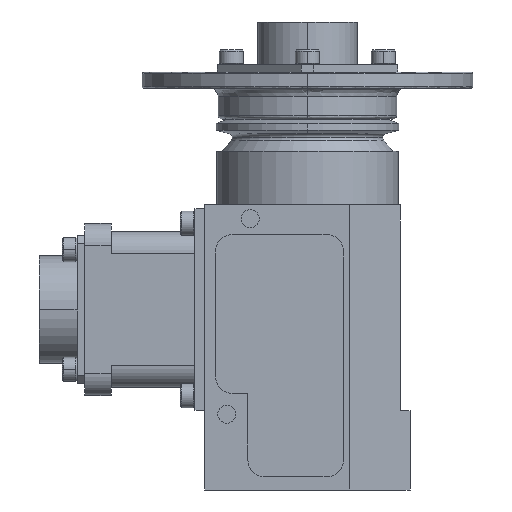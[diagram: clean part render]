
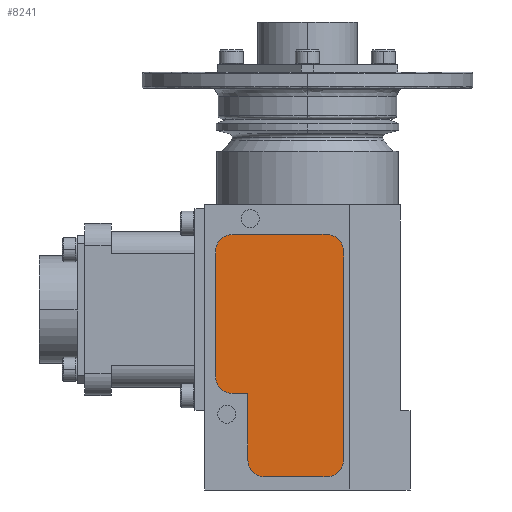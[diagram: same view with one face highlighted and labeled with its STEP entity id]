
A CAD part, left-side view. The second image highlights one B-rep face of the part: STEP entity #8241.
In plain terms, the highlighted planar face has unit normal (-1, 0, 0).
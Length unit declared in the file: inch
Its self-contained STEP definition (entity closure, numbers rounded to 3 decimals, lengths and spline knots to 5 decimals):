
#88 = VERTEX_POINT ( 'NONE', #5137 ) ;
#96 = EDGE_CURVE ( 'NONE', #2669, #3399, #671, .T. ) ;
#108 = ORIENTED_EDGE ( 'NONE', *, *, #8727, .T. ) ;
#149 = AXIS2_PLACEMENT_3D ( 'NONE', #9967, #4000, #12068 ) ;
#193 = LINE ( 'NONE', #509, #5898 ) ;
#318 = ORIENTED_EDGE ( 'NONE', *, *, #12033, .T. ) ;
#484 = CARTESIAN_POINT ( 'NONE',  ( -0.74, 0.568, -2.4255 ) ) ;
#509 = CARTESIAN_POINT ( 'NONE',  ( -0.74, 0.568, -1.22542 ) ) ;
#645 = DIRECTION ( 'NONE',  ( 0., 0., -1. ) ) ;
#671 = CIRCLE ( 'NONE', #12542, 0.125 ) ;
#772 = DIRECTION ( 'NONE',  ( 0., -1., 0. ) ) ;
#826 = AXIS2_PLACEMENT_3D ( 'NONE', #4938, #11897, #6803 ) ;
#845 = VERTEX_POINT ( 'NONE', #10282 ) ;
#1029 = VECTOR ( 'NONE', #4497, 39.37008 ) ;
#1152 = LINE ( 'NONE', #5698, #7794 ) ;
#1427 = AXIS2_PLACEMENT_3D ( 'NONE', #5393, #2187, #6411 ) ;
#1473 = CARTESIAN_POINT ( 'NONE',  ( -0.74, -0.27302, -2.93155 ) ) ;
#1497 = ORIENTED_EDGE ( 'NONE', *, *, #8562, .T. ) ;
#1506 = DIRECTION ( 'NONE',  ( 0., 0., -1. ) ) ;
#1659 = EDGE_CURVE ( 'NONE', #4603, #88, #5565, .T. ) ;
#1685 = ORIENTED_EDGE ( 'NONE', *, *, #2576, .T. ) ;
#1980 = LINE ( 'NONE', #1473, #1029 ) ;
#2187 = DIRECTION ( 'NONE',  ( -1., 0., 0. ) ) ;
#2193 = LINE ( 'NONE', #11314, #6491 ) ;
#2399 = CARTESIAN_POINT ( 'NONE',  ( -0.74, -0.27302, -2.93155 ) ) ;
#2454 = VERTEX_POINT ( 'NONE', #3674 ) ;
#2544 = DIRECTION ( 'NONE',  ( -1., 0., 0. ) ) ;
#2576 = EDGE_CURVE ( 'NONE', #88, #2454, #7892, .T. ) ;
#2644 = ORIENTED_EDGE ( 'NONE', *, *, #8167, .T. ) ;
#2652 = CARTESIAN_POINT ( 'NONE',  ( -0.74, 0.568, -2.4255 ) ) ;
#2669 = VERTEX_POINT ( 'NONE', #11832 ) ;
#2676 = PLANE ( 'NONE',  #826 ) ;
#2927 = CARTESIAN_POINT ( 'NONE',  ( -0.74, 0.568, -2.3005 ) ) ;
#3321 = EDGE_CURVE ( 'NONE', #845, #2669, #2193, .T. ) ;
#3352 = CIRCLE ( 'NONE', #10580, 0.125 ) ;
#3398 = CARTESIAN_POINT ( 'NONE',  ( -0.74, -0.27302, -1.35042 ) ) ;
#3399 = VERTEX_POINT ( 'NONE', #2399 ) ;
#3530 = VERTEX_POINT ( 'NONE', #4240 ) ;
#3674 = CARTESIAN_POINT ( 'NONE',  ( -0.74, 0.45, -2.93155 ) ) ;
#3985 = ORIENTED_EDGE ( 'NONE', *, *, #5355, .T. ) ;
#4000 = DIRECTION ( 'NONE',  ( -1., 0., 0. ) ) ;
#4240 = CARTESIAN_POINT ( 'NONE',  ( -0.74, -0.14802, -1.22542 ) ) ;
#4497 = DIRECTION ( 'NONE',  ( 0., 0., 1. ) ) ;
#4603 = VERTEX_POINT ( 'NONE', #484 ) ;
#4875 = DIRECTION ( 'NONE',  ( -1., 0., 0. ) ) ;
#4938 = CARTESIAN_POINT ( 'NONE',  ( -0.74, 0.568, -1.35042 ) ) ;
#5137 = CARTESIAN_POINT ( 'NONE',  ( -0.74, 0.45, -2.4255 ) ) ;
#5355 = EDGE_CURVE ( 'NONE', #3399, #9112, #1980, .T. ) ;
#5393 = CARTESIAN_POINT ( 'NONE',  ( -0.74, 0.568, -1.35042 ) ) ;
#5452 = CARTESIAN_POINT ( 'NONE',  ( -0.74, -0.14802, -2.93155 ) ) ;
#5565 = LINE ( 'NONE', #2652, #12904 ) ;
#5698 = CARTESIAN_POINT ( 'NONE',  ( -0.74, 0.693, -2.3005 ) ) ;
#5898 = VECTOR ( 'NONE', #8650, 39.37008 ) ;
#6411 = DIRECTION ( 'NONE',  ( 0., -1., 0. ) ) ;
#6491 = VECTOR ( 'NONE', #12348, 39.37008 ) ;
#6546 = CIRCLE ( 'NONE', #149, 0.125 ) ;
#6552 = CARTESIAN_POINT ( 'NONE',  ( -0.74, 0.45, -2.4255 ) ) ;
#6621 = CARTESIAN_POINT ( 'NONE',  ( -0.74, 0.325, -2.93155 ) ) ;
#6799 = VECTOR ( 'NONE', #1506, 39.37008 ) ;
#6803 = DIRECTION ( 'NONE',  ( 0., -1., 0. ) ) ;
#6874 = CIRCLE ( 'NONE', #8668, 0.125 ) ;
#6964 = DIRECTION ( 'NONE',  ( 0., -1., 0. ) ) ;
#7025 = ORIENTED_EDGE ( 'NONE', *, *, #1659, .T. ) ;
#7401 = CARTESIAN_POINT ( 'NONE',  ( -0.74, 0.693, -2.3005 ) ) ;
#7555 = DIRECTION ( 'NONE',  ( 0., -1., 0. ) ) ;
#7671 = DIRECTION ( 'NONE',  ( 0., -1., 0. ) ) ;
#7794 = VECTOR ( 'NONE', #645, 39.37008 ) ;
#7892 = LINE ( 'NONE', #6552, #6799 ) ;
#8127 = FACE_OUTER_BOUND ( 'NONE', #9127, .T. ) ;
#8165 = ORIENTED_EDGE ( 'NONE', *, *, #96, .T. ) ;
#8167 = EDGE_CURVE ( 'NONE', #2454, #845, #6874, .T. ) ;
#8241 = ADVANCED_FACE ( 'NONE', ( #8127 ), #2676, .T. ) ;
#8340 = EDGE_CURVE ( 'NONE', #9112, #3530, #6546, .T. ) ;
#8562 = EDGE_CURVE ( 'NONE', #10810, #9218, #1152, .T. ) ;
#8650 = DIRECTION ( 'NONE',  ( 0., 1., 0. ) ) ;
#8668 = AXIS2_PLACEMENT_3D ( 'NONE', #6621, #2544, #7671 ) ;
#8727 = EDGE_CURVE ( 'NONE', #9218, #4603, #3352, .T. ) ;
#9112 = VERTEX_POINT ( 'NONE', #3398 ) ;
#9127 = EDGE_LOOP ( 'NONE', ( #12654, #12845, #318, #1497, #108, #7025, #1685, #2644, #11170, #8165, #3985 ) ) ;
#9218 = VERTEX_POINT ( 'NONE', #7401 ) ;
#9805 = CARTESIAN_POINT ( 'NONE',  ( -0.74, 0.693, -1.35042 ) ) ;
#9967 = CARTESIAN_POINT ( 'NONE',  ( -0.74, -0.14802, -1.35042 ) ) ;
#10282 = CARTESIAN_POINT ( 'NONE',  ( -0.74, 0.325, -3.05655 ) ) ;
#10451 = DIRECTION ( 'NONE',  ( -1., 0., 0. ) ) ;
#10580 = AXIS2_PLACEMENT_3D ( 'NONE', #2927, #4875, #6964 ) ;
#10810 = VERTEX_POINT ( 'NONE', #9805 ) ;
#11038 = CARTESIAN_POINT ( 'NONE',  ( -0.74, 0.568, -1.22542 ) ) ;
#11170 = ORIENTED_EDGE ( 'NONE', *, *, #3321, .T. ) ;
#11314 = CARTESIAN_POINT ( 'NONE',  ( -0.74, -0.14802, -3.05655 ) ) ;
#11832 = CARTESIAN_POINT ( 'NONE',  ( -0.74, -0.14802, -3.05655 ) ) ;
#11897 = DIRECTION ( 'NONE',  ( -1., 0., 0. ) ) ;
#12033 = EDGE_CURVE ( 'NONE', #12212, #10810, #12608, .T. ) ;
#12068 = DIRECTION ( 'NONE',  ( 0., -1., 0. ) ) ;
#12212 = VERTEX_POINT ( 'NONE', #11038 ) ;
#12348 = DIRECTION ( 'NONE',  ( 0., -1., 0. ) ) ;
#12482 = EDGE_CURVE ( 'NONE', #3530, #12212, #193, .T. ) ;
#12542 = AXIS2_PLACEMENT_3D ( 'NONE', #5452, #10451, #7555 ) ;
#12608 = CIRCLE ( 'NONE', #1427, 0.125 ) ;
#12654 = ORIENTED_EDGE ( 'NONE', *, *, #8340, .T. ) ;
#12845 = ORIENTED_EDGE ( 'NONE', *, *, #12482, .T. ) ;
#12904 = VECTOR ( 'NONE', #772, 39.37008 ) ;
